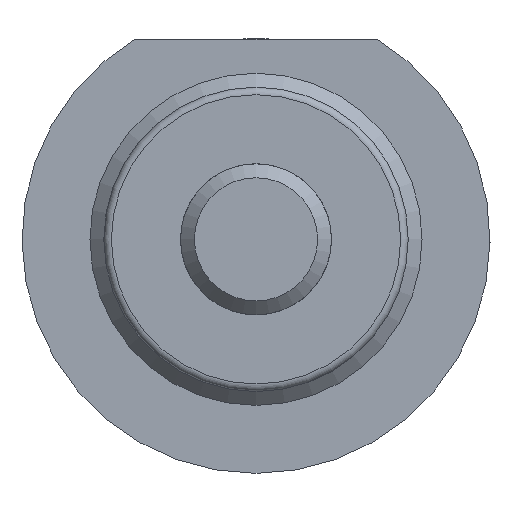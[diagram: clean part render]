
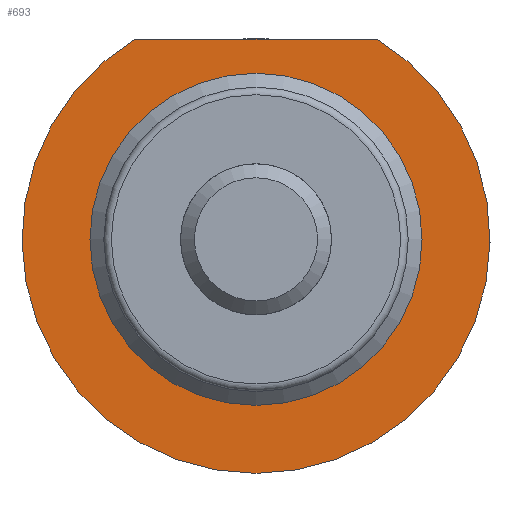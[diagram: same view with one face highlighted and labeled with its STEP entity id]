
A CAD part, left-side view. The second image highlights one B-rep face of the part: STEP entity #693.
In plain terms, the highlighted planar face has unit normal (-1, 0, 0).
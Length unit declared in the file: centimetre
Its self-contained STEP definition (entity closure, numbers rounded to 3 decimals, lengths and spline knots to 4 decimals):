
#33=PLANE($,#772);
#60=FACE_BOUND($,#282,.T.);
#103=CIRCLE($,#766,1.1);
#106=CIRCLE($,#771,1.55);
#150=LINE($,#1207,#178);
#178=VECTOR($,#933,1.6086);
#213=FACE_OUTER_BOUND($,#281,.T.);
#281=EDGE_LOOP($,(#547,#548));
#282=EDGE_LOOP($,(#549));
#371=VERTEX_POINT($,#1193);
#374=VERTEX_POINT($,#1201);
#375=VERTEX_POINT($,#1203);
#439=EDGE_CURVE($,#371,#371,#103,.T.);
#444=EDGE_CURVE($,#375,#374,#106,.T.);
#445=EDGE_CURVE($,#375,#374,#150,.T.);
#547=ORIENTED_EDGE($,*,*,#444,.F.);
#548=ORIENTED_EDGE($,*,*,#445,.T.);
#549=ORIENTED_EDGE($,*,*,#439,.T.);
#693=ADVANCED_FACE($,(#213,#60),#33,.F.);
#766=AXIS2_PLACEMENT_3D($,#1194,#917,#918);
#771=AXIS2_PLACEMENT_3D($,#1205,#929,#930);
#772=AXIS2_PLACEMENT_3D($,#1206,#931,#932);
#917=DIRECTION('center_axis',(1.,0.,0.));
#918=DIRECTION('ref_axis',(0.,0.,
-1.));
#929=DIRECTION('center_axis',(1.,0.,0.));
#930=DIRECTION('ref_axis',(0.,0.,
-1.));
#931=DIRECTION('center_axis',(1.,0.,0.));
#932=DIRECTION('ref_axis',(0.,0.,-1.));
#933=DIRECTION($,(0.,1.,0.));
#1193=CARTESIAN_POINT('',(1.,0.,-1.1));
#1194=CARTESIAN_POINT('Origin',(1.,0.,0.));
#1201=CARTESIAN_POINT('',(1.,0.8043,1.325));
#1203=CARTESIAN_POINT('',(1.,-0.8043,1.325));
#1205=CARTESIAN_POINT('Origin',(1.,0.,0.));
#1206=CARTESIAN_POINT('Origin',(1.,1.1,0.));
#1207=CARTESIAN_POINT($,(1.,-5.32,1.325));
